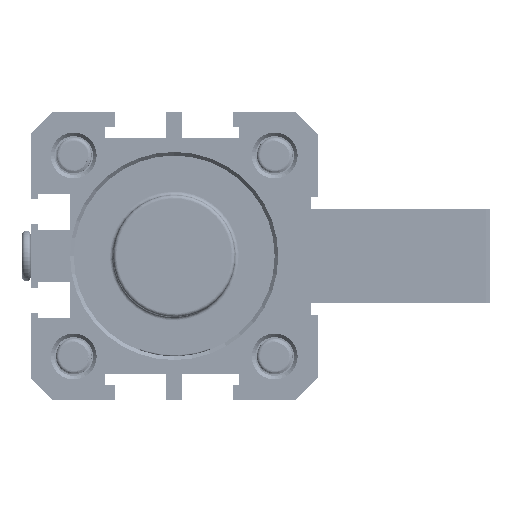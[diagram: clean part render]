
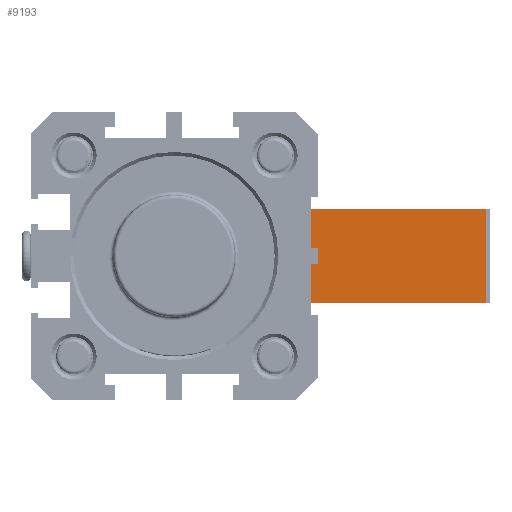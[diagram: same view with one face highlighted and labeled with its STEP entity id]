
A CAD part, front view. The second image highlights one B-rep face of the part: STEP entity #9193.
In plain terms, the highlighted planar face has unit normal (0, -1, 0).
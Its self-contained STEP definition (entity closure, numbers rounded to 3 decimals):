
#729=PLANE('',#10457);
#1200=FACE_OUTER_BOUND('',#1761,.T.);
#1761=EDGE_LOOP('',(#8096,#8097,#8098,#8099,#8100,#8101,#8102,#8103));
#2332=LINE('',#25745,#2895);
#2337=LINE('',#25753,#2900);
#2341=LINE('',#25762,#2904);
#2348=LINE('',#25774,#2911);
#2362=LINE('',#25802,#2925);
#2364=LINE('',#25807,#2927);
#2365=LINE('',#25808,#2928);
#2366=LINE('',#25809,#2929);
#2895=VECTOR('',#12885,1000.);
#2900=VECTOR('',#12892,1000.);
#2904=VECTOR('',#12898,1000.);
#2911=VECTOR('',#12907,1000.);
#2925=VECTOR('',#12933,1000.);
#2927=VECTOR('',#12937,1000.);
#2928=VECTOR('',#12938,1000.);
#2929=VECTOR('',#12939,1000.);
#4347=VERTEX_POINT('',#25743);
#4348=VERTEX_POINT('',#25744);
#4350=VERTEX_POINT('',#25752);
#4353=VERTEX_POINT('',#25760);
#4354=VERTEX_POINT('',#25761);
#4366=VERTEX_POINT('',#25801);
#4367=VERTEX_POINT('',#25805);
#4368=VERTEX_POINT('',#25806);
#5619=EDGE_CURVE('',#4347,#4348,#2332,.T.);
#5624=EDGE_CURVE('',#4347,#4350,#2337,.T.);
#5628=EDGE_CURVE('',#4353,#4354,#2341,.T.);
#5635=EDGE_CURVE('',#4350,#4354,#2348,.T.);
#5649=EDGE_CURVE('',#4366,#4353,#2362,.T.);
#5651=EDGE_CURVE('',#4367,#4368,#2364,.T.);
#5652=EDGE_CURVE('',#4368,#4366,#2365,.T.);
#5653=EDGE_CURVE('',#4367,#4348,#2366,.T.);
#8096=ORIENTED_EDGE('',*,*,#5651,.T.);
#8097=ORIENTED_EDGE('',*,*,#5652,.T.);
#8098=ORIENTED_EDGE('',*,*,#5649,.T.);
#8099=ORIENTED_EDGE('',*,*,#5628,.T.);
#8100=ORIENTED_EDGE('',*,*,#5635,.F.);
#8101=ORIENTED_EDGE('',*,*,#5624,.F.);
#8102=ORIENTED_EDGE('',*,*,#5619,.T.);
#8103=ORIENTED_EDGE('',*,*,#5653,.F.);
#9193=ADVANCED_FACE('',(#1200),#729,.F.);
#10457=AXIS2_PLACEMENT_3D('',#25804,#12935,#12936);
#12885=DIRECTION('',(0.,0.,-1.));
#12892=DIRECTION('',(1.,0.,0.));
#12898=DIRECTION('',(1.,0.,0.));
#12907=DIRECTION('',(0.,0.,-1.));
#12933=DIRECTION('',(0.,0.,-1.));
#12935=DIRECTION('center_axis',(0.,1.,0.));
#12936=DIRECTION('ref_axis',(0.,0.,1.));
#12937=DIRECTION('',(0.,0.,-1.));
#12938=DIRECTION('',(-1.,0.,0.));
#12939=DIRECTION('',(-1.,0.,0.));
#25743=CARTESIAN_POINT('',(-3070.69,5231.602,13.));
#25744=CARTESIAN_POINT('',(-3070.69,5231.602,9.5));
#25745=CARTESIAN_POINT('',(-3070.69,5231.602,13.));
#25752=CARTESIAN_POINT('',(-3021.69,5231.602,13.));
#25753=CARTESIAN_POINT('',(-3069.69,5231.602,13.));
#25760=CARTESIAN_POINT('',(-3070.69,5231.602,0.));
#25761=CARTESIAN_POINT('',(-3021.69,5231.602,0.));
#25762=CARTESIAN_POINT('',(-3069.69,5231.602,0.));
#25774=CARTESIAN_POINT('',(-3021.69,5231.602,13.));
#25801=CARTESIAN_POINT('',(-3070.69,5231.602,3.5));
#25802=CARTESIAN_POINT('',(-3070.69,5231.602,13.));
#25804=CARTESIAN_POINT('Origin',(-3069.69,5231.602,13.));
#25805=CARTESIAN_POINT('',(-3057.19,5231.602,9.5));
#25806=CARTESIAN_POINT('',(-3057.19,5231.602,3.5));
#25807=CARTESIAN_POINT('',(-3057.19,5231.602,6.5));
#25808=CARTESIAN_POINT('',(-3088.881,5231.602,3.5));
#25809=CARTESIAN_POINT('',(-3088.881,5231.602,9.5));
